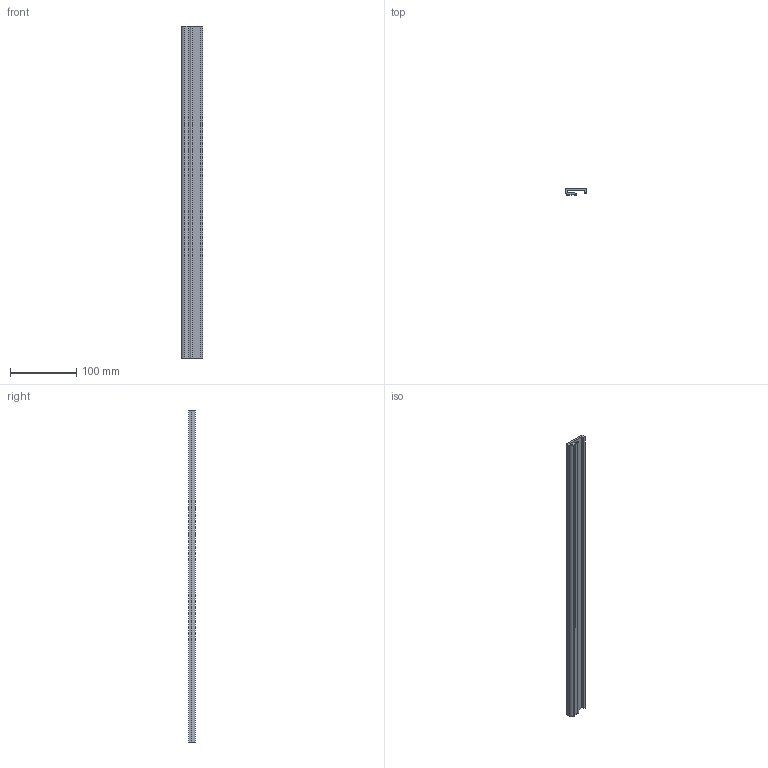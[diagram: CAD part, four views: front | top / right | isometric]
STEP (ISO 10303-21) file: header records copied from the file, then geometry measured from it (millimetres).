
FILE_DESCRIPTION (( 'STEP AP214' ), '1' );
FILE_NAME ('R3PG.STEP', '2011-05-09T07:04:23', ( '.' ), ( '' ), 'SwSTEP 2.0', 'SolidWorks 2010', '' );
FILE_SCHEMA (( 'AUTOMOTIVE_DESIGN' ));
Length unit declared in the file: millimetre
Products named in the file (1): R3PG
Bounding box: 32.3 x 10.3 x 500 mm (x, y, z)
Volume: 82347.7 mm3; surface area: 58482.7 mm2
Topology: 1 solids, 1 shells, 21 faces, 57 edges, 38 vertices
Faces by surface type: plane 13, cylinder 8
Entity records: 701 total; most frequent: CARTESIAN_POINT 117, DIRECTION 117, ORIENTED_EDGE 114, EDGE_CURVE 57, VECTOR 41, LINE 41, VERTEX_POINT 38, AXIS2_PLACEMENT_3D 38
